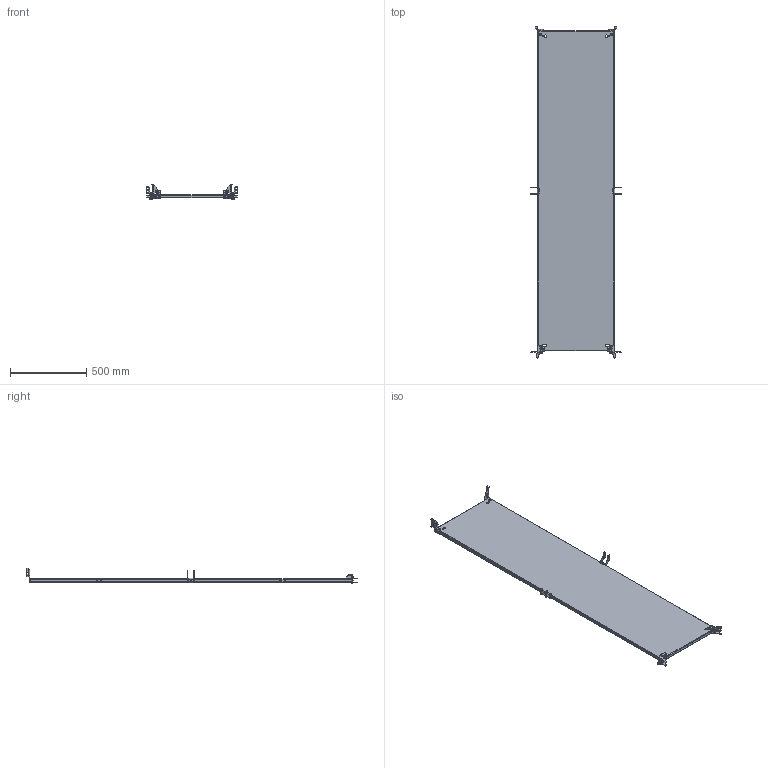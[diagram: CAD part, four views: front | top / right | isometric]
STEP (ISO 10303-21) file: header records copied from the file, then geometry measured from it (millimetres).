
FILE_DESCRIPTION (( 'STEP AP214' ), '1' );
FILE_NAME ('MSD 220.60 ÑÁ Ìîíòàæíàÿ ïàíåëü â ñáîðå.STEP', '2023-12-11T04:50:45', ( '' ), ( '' ), 'SwSTEP 2.0', 'SolidWorks 2019', '' );
FILE_SCHEMA (( 'AUTOMOTIVE_DESIGN' ));
Length unit declared in the file: millimetre
Products named in the file (8): TS-012 Íèæíèé äåðæàòåëü ìîíòàæíîé ïàíåëè; TS-011_L Íèæíèé äåðæàòåëü ìîíòàæíîé ïàíåëè; MSD 220.60 ÑÁ Ìîíòàæíàÿ ïàíåëü â ñáîðå; TS-010_R Âåðõíèé äåðæàòåëü ìîíòàæíîé ïàíåëè; TS-011_R Íèæíèé äåðæàòåëü ìîíòàæíîé ïàíåëè; MSD X.Y Ìîíòàæíàÿ ïàíåëü_MSD 220.60 Œ®­â ¦­ ï ¯ ­¥«ì; BMD 6 Ôèêñàòîð ìîíòàæíîé ïàíåëè; TS-010_L Âåðõíèé äåðæàòåëü ìîíòàæíîé ïàíåëè
Assembly tree (9 placements, depth 2):
  MSD 220.60 ÑÁ Ìîíòàæíàÿ ïàíåëü â ñáîðå
    MSD X.Y Ìîíòàæíàÿ ïàíåëü_MSD 220.60 Œ®­â ¦­ ï ¯ ­¥«ì
    TS-011_L Íèæíèé äåðæàòåëü ìîíòàæíîé ïàíåëè
    TS-011_R Íèæíèé äåðæàòåëü ìîíòàæíîé ïàíåëè
    TS-010_R Âåðõíèé äåðæàòåëü ìîíòàæíîé ïàíåëè
    TS-010_L Âåðõíèé äåðæàòåëü ìîíòàæíîé ïàíåëè
    TS-012 Íèæíèé äåðæàòåëü ìîíòàæíîé ïàíåëè  x2
    BMD 6 Ôèêñàòîð ìîíòàæíîé ïàíåëè  x2
Bounding box: 594 x 2171.5 x 103.7 mm (x, y, z)
Volume: 3178581.4 mm3; surface area: 2523877.3 mm2
Topology: 9 solids, 9 shells, 810 faces, 2202 edges, 1416 vertices
Faces by surface type: plane 450, cylinder 348, bspline 8, cone 4
Entity records: 20447 total; most frequent: CARTESIAN_POINT 3943, ORIENTED_EDGE 3396, DIRECTION 3384, EDGE_CURVE 1698, VECTOR 1156, LINE 1156, AXIS2_PLACEMENT_3D 1114, VERTEX_POINT 1094
